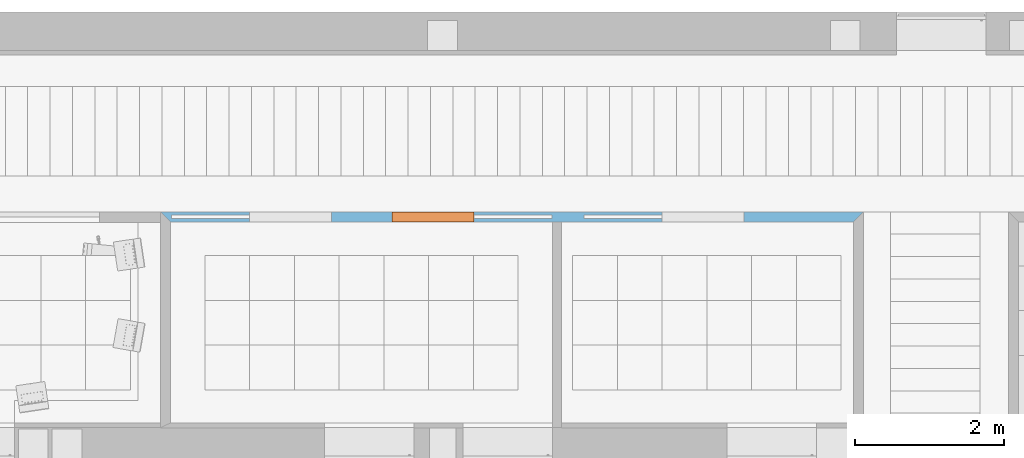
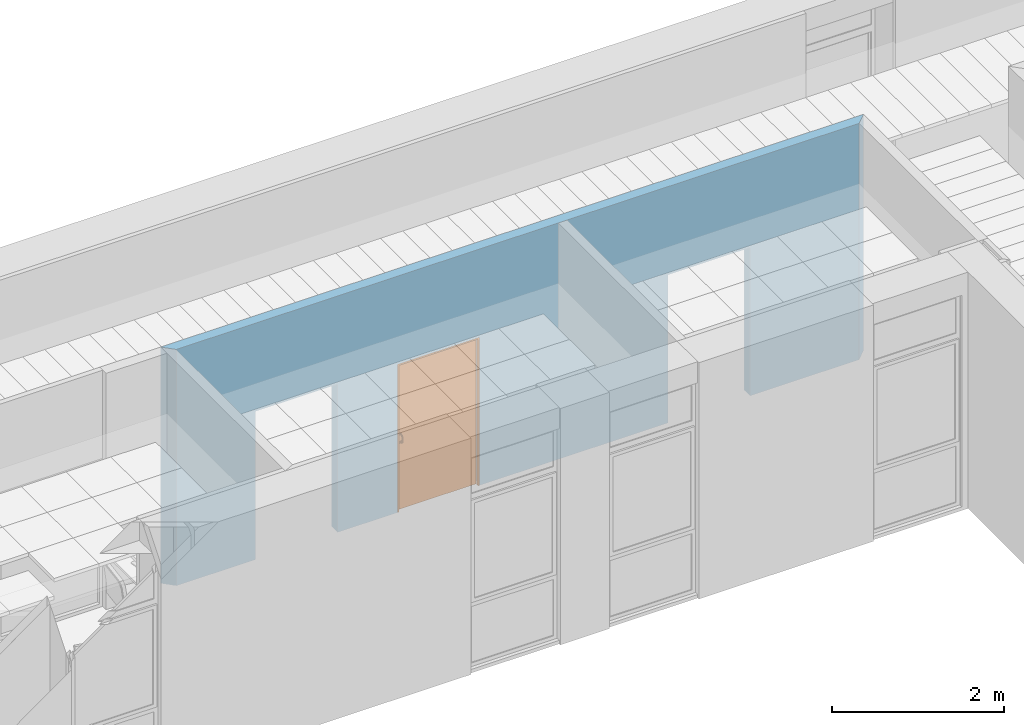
# One storey, part 57 of 68: 1 proxy, 3 openings, plus 1 element that does not belong to this part.
"""IFC2X3 building model written with IfcOpenShell, lengths in millimetres."""

from ifc_helpers import new_model, entity, si_unit, converted_unit, derived_unit, money_unit, direction, frame, origin_with_axes, origin_2d_with_axis, place, context, subcontext, project, spatial, polyline, rectangle, outline, extrude, open_shell, faceted_brep, surface_model, material, layer, layer_set, layer_usage, type_object, element, fill, save


model = new_model("IFC2X3")

# Units and contexts
model_context = context("Model", 3, precision=0.01, world=origin_with_axes(), true_north=direction((0.0, 1.0)))
body_context = subcontext(model_context, "Body", "Model", "MODEL_VIEW")
ifc_project = project(units=[si_unit("LENGTHUNIT", "METRE", prefix="MILLI"), si_unit("AREAUNIT", "SQUARE_METRE"), si_unit("VOLUMEUNIT", "CUBIC_METRE"), converted_unit("PLANEANGLEUNIT", "DEGREE", entity("IfcPlaneAngleMeasure", 0.0174532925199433), si_unit("PLANEANGLEUNIT", "RADIAN"), dimensions=[0, 0, 0, 0, 0, 0, 0]), money_unit("USD"), converted_unit("TIMEUNIT", "Year", entity("IfcTimeMeasure", 31557600.0), si_unit("TIMEUNIT", "SECOND"), dimensions=[0, 0, 1, 0, 0, 0, 0]), si_unit("MASSUNIT", "GRAM", prefix="KILO"), si_unit("THERMODYNAMICTEMPERATUREUNIT", "DEGREE_CELSIUS"), si_unit("LUMINOUSINTENSITYUNIT", "LUMEN"), si_unit("ENERGYUNIT", "JOULE", prefix="MEGA"), derived_unit("THERMALCONDUCTANCEUNIT", [(si_unit("POWERUNIT", "WATT"), 1), (si_unit("LENGTHUNIT", "METRE"), -1), (si_unit("THERMODYNAMICTEMPERATUREUNIT", "KELVIN"), -1)]), derived_unit("SPECIFICHEATCAPACITYUNIT", [(si_unit("ENERGYUNIT", "JOULE"), 1), (si_unit("MASSUNIT", "GRAM", prefix="KILO"), -1), (si_unit("THERMODYNAMICTEMPERATUREUNIT", "KELVIN"), -1)]), derived_unit("MASSDENSITYUNIT", [(si_unit("MASSUNIT", "GRAM", prefix="KILO"), 1), (si_unit("VOLUMEUNIT", "CUBIC_METRE"), -1)])], contexts=[model_context])

# Site, building, storey
site_placement = place(None, origin_with_axes())
site = spatial("IfcSite", under=ifc_project, at=site_placement, Name="Sitio", CompositionType="ELEMENT")
building_placement = place(site_placement, origin_with_axes())
building = spatial("IfcBuilding", under=site, at=building_placement, Name="Construcción", CompositionType="ELEMENT")
storey_placement = place(building_placement, origin_with_axes())
storey = spatial("IfcBuildingStorey", under=building, at=storey_placement, Name="PLANTA 1ª", CompositionType="ELEMENT", Elevation=0.0)

# Wall, openings, proxy
ifc_material_1 = material(Name="Panel de Yeso Laminado")
ifc_layer_1 = layer(ifc_material_1, 13.0, ventilated="UNKNOWN")
ifc_layer_2 = layer(ifc_material_1, 13.0, ventilated="UNKNOWN")
ifc_material_2 = material(Name="ARQ_AI033_Aillament_Llana_De_Roca")
ifc_layer_3 = layer(ifc_material_2, 70.0, ventilated="UNKNOWN")
ifc_layer_4 = layer(ifc_material_1, 13.0, ventilated="UNKNOWN")
ifc_layer_5 = layer(ifc_material_1, 13.0, ventilated="UNKNOWN")
ifc_material_3 = material(Name="ARQ_EN271_Camara_Aire")
ifc_layer_6 = layer(ifc_material_3, 6.0, ventilated="UNKNOWN")
ifc_material_4 = material(Name="ARQ_FU093_Panellat_HPL")
ifc_layer_7 = layer(ifc_material_4, 6.0, ventilated="UNKNOWN")
ifc_layer_set = layer_set([ifc_layer_1, ifc_layer_2, ifc_layer_3, ifc_layer_4, ifc_layer_5, ifc_layer_6, ifc_layer_7], Name="CR Pladur 70 HPL 1 cara")
ifc_layer_usage = layer_usage(ifc_layer_set, "AXIS2", "POSITIVE", 0.0)
wall_type = type_object("IfcWallType", Name="CR Pladur 70 HPL 1 cara 134", PredefinedType="NOTDEFINED")
wall_placement = place(storey_placement, frame((-10845.8481802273, 1566.853055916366, 0.0), z_axis=(0.0, 0.0, 1.0), x_axis=(1.0, 0.0, 0.0)))
wall = element("IfcWallStandardCase", 1, at=wall_placement, inside=storey, type_object=wall_type, material=ifc_layer_usage, Name="MS-213", context=body_context, shape_type="SweptSolid", body=[
    extrude(outline(polyline([(0.0, 0.0), (9155.739175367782, 0.0), (9289.739175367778, 133.9999999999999), (-133.9999999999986, 133.9999999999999), (0.0, 0.0)])), origin_with_axes(), (0.0, 0.0, 1.0), 3350.0),
])
opening_1_placement = place(wall_placement, frame((7140.305255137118, 0.0, 0.0), z_axis=(0.0, 0.0, 1.0), x_axis=(1.0, 0.0, 0.0)))
element("IfcOpeningElement", 2, at=opening_1_placement, cuts=wall, Name="P-04", context=body_context, shape_type="SweptSolid", body=[
    extrude(rectangle(XDim=1100.0, YDim=2100.0, at=origin_2d_with_axis()), frame((0.0, 134.0000000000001, 1050.0), z_axis=(0.0, -1.0, 0.0), x_axis=(-1.0, 0.0, 0.0)), (0.0, 0.0, 1.0), 402.0),
    extrude(rectangle(XDim=1044.999992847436, YDim=2080.0, at=origin_2d_with_axis()), frame((-1072.499996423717, 42.00000000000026, 1040.0), z_axis=(0.0, 1.0, 0.0), x_axis=(-1.0, 0.0, 0.0)), (0.0, 0.0, 1.0), 50.0),
])
opening_2_placement = place(wall_placement, frame((1610.854027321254, 0.0, 0.0), z_axis=(0.0, 0.0, 1.0), x_axis=(1.0, 0.0, 0.0)))
element("IfcOpeningElement", 3, at=opening_2_placement, cuts=wall, Name="P-04", context=body_context, shape_type="SweptSolid", body=[
    extrude(rectangle(XDim=1100.000000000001, YDim=2100.0, at=origin_2d_with_axis()), frame((0.0, 134.0000000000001, 1050.0), z_axis=(0.0, -1.0, 0.0), x_axis=(-1.0, 0.0, 0.0)), (0.0, 0.0, 1.0), 402.0),
    extrude(rectangle(XDim=1044.999992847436, YDim=2080.0, at=origin_2d_with_axis()), frame((-1072.499996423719, 42.00000000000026, 1040.0), z_axis=(0.0, 1.0, 0.0), x_axis=(-1.0, 0.0, 0.0)), (0.0, 0.0, 1.0), 50.0),
])
opening_3_placement = place(wall_placement, frame((3517.761394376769, 0.0, 0.0), z_axis=(0.0, 0.0, 1.0), x_axis=(1.0, 0.0, 0.0)))
opening_3 = element("IfcOpeningElement", 4, at=opening_3_placement, cuts=wall, Name="P-04", context=body_context, shape_type="SweptSolid", body=[
    extrude(rectangle(XDim=1100.0, YDim=2100.0, at=origin_2d_with_axis()), frame((0.0, 134.0000000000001, 1050.0), z_axis=(0.0, 1.0, 0.0), x_axis=(1.0, 0.0, 0.0)), (0.0, 0.0, -1.0), 402.0),
    extrude(rectangle(XDim=1044.999992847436, YDim=2080.0, at=origin_2d_with_axis()), frame((1072.499996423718, 42.00000000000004, 1040.0), z_axis=(0.0, -1.0, 0.0), x_axis=(1.0, 0.0, 0.0)), (0.0, 0.0, -1.0), 50.0),
])
building_element_proxy_type = type_object("IfcBuildingElementProxyType", Name="Puerta Corredera Empotrada 27", PredefinedType="NOTDEFINED")
proxy_placement = place(opening_3_placement, frame((549.9999999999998, 0.0, 0.0), z_axis=(0.0, 0.0, 1.0), x_axis=(-1.0, 0.0, 0.0)))
proxy = element("IfcBuildingElementProxy", 5, at=proxy_placement, inside=storey, type_object=building_element_proxy_type, Name="P-04", context=body_context, shape_type="SurfaceModel", body=[
    faceted_brep([(1100.0, 0.0, 0.0), (1100.0, -134.0000000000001, 0.0), (1080.0, -134.0000000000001, 0.0), (1080.0, 0.0, 0.0), (1100.0, 0.0, 2080.0), (1100.0, -134.0000000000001, 2080.0), (1080.0, -134.0000000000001, 2080.0), (1080.0, 0.0, 2080.0)], [[[0, 1, 2, 3]], [[4, 5, 1, 0]], [[1, 5, 6, 2]], [[3, 2, 6, 7]], [[0, 3, 7, 4]], [[7, 6, 5, 4]]]),
    faceted_brep([(19.99999999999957, -42.00000000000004, 2080.0), (19.99999999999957, 0.0, 2080.0), (0.0, 0.0, 2080.0), (0.0, -42.00000000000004, 2080.0), (19.99999999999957, -42.00000000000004, 0.0), (19.99999999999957, 0.0, 0.0), (0.0, 0.0, 0.0), (0.0, -42.00000000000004, 0.0)], [[[0, 1, 2, 3]], [[4, 5, 1, 0]], [[5, 6, 2, 1]], [[3, 2, 6, 7]], [[7, 4, 0, 3]], [[7, 6, 5, 4]]]),
    faceted_brep([(0.0, -92.00000000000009, 0.0), (0.0, -133.9999999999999, 0.0), (0.0, -134.0000000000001, 2080.0), (0.0, -92.00000000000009, 2080.0), (19.99999999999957, -92.00000000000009, 0.0), (19.99999999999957, -133.9999999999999, 0.0), (19.99999999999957, -134.0000000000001, 2080.0), (19.99999999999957, -92.00000000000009, 2080.0)], [[[0, 1, 2, 3]], [[4, 5, 1, 0]], [[2, 1, 5, 6]], [[3, 2, 6, 7]], [[7, 4, 0, 3]], [[7, 6, 5, 4]]]),
    faceted_brep([(1100.0, 0.0, 2100.0), (1100.0, -134.0000000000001, 2100.0), (1100.0, -134.0000000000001, 2080.0), (1100.0, 0.0, 2080.0), (0.0, 0.0, 2100.0), (0.0, -134.0000000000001, 2100.0), (0.0, -134.0000000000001, 2080.0), (19.99999999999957, -134.0000000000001, 2080.0), (1080.0, -134.0000000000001, 2080.0), (1080.0, 0.0, 2080.0), (19.99999999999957, 0.0, 2080.0), (0.0, 0.0, 2080.0)], [[[0, 1, 2, 3]], [[4, 5, 1, 0]], [[1, 5, 6, 7, 8, 2]], [[3, 2, 8, 9]], [[0, 3, 9, 10, 11, 4]], [[11, 6, 5, 4]], [[10, 7, 6, 11]], [[9, 8, 7, 10]]]),
    faceted_brep([(1023.0, -109.5000000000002, 1050.980762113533), (1023.937822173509, -111.2500000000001, 1054.011851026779), (1023.937822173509, -94.50000000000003, 1058.5), (1023.0, -94.50000000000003, 1055.0), (1023.0, -120.4807621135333, 1040.0), (1023.937822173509, -123.5118510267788, 1041.75), (1026.5, -112.5310889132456, 1056.230762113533), (1026.5, -94.50000000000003, 1061.062177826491), (1030.0, -94.50000000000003, 1062.0), (1033.5, -94.50000000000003, 1061.062177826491), (1036.062177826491, -94.50000000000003, 1058.5), (1037.0, -94.50000000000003, 1055.0), (1036.062177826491, -94.50000000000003, 1051.5), (1033.5, -94.50000000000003, 1048.937822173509), (1030.0, -94.50000000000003, 1048.0), (1026.5, -94.50000000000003, 1048.937822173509), (1023.937822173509, -94.50000000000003, 1051.5), (1023.937822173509, -107.7500000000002, 1047.949673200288), (1023.0, -124.5000000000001, 1025.0), (1023.937822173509, -128.0000000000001, 1025.0), (1026.5, -125.7307621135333, 1043.031088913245), (1023.937822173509, -117.4496732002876, 1038.25), (1030.0, -113.0000000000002, 1057.042939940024), (1033.5, -112.5310889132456, 1056.230762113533), (1036.062177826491, -111.2500000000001, 1054.011851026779), (1037.0, -109.5000000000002, 1050.980762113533), (1036.062177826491, -107.7500000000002, 1047.949673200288), (1033.5, -106.4689110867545, 1045.730762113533), (1030.0, -106.0000000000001, 1044.918584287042), (1026.5, -106.4689110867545, 1045.730762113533), (1023.937822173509, -121.0000000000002, 1025.0), (1026.5, -118.4378221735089, 1025.0), (1030.0, -117.5000000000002, 1025.0), (1033.5, -118.4378221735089, 1025.0), (1036.062177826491, -121.0000000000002, 1025.0), (1037.0, -124.5000000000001, 1025.0), (1036.062177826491, -128.0000000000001, 1025.0), (1033.5, -130.5621778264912, 1025.0), (1030.0, -131.5000000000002, 1025.0), (1026.5, -130.5621778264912, 1025.0), (1030.0, -126.5429399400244, 1043.5), (1026.5, -115.2307621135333, 1036.968911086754), (1033.5, -125.7307621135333, 1043.031088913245), (1036.062177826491, -123.5118510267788, 1041.75), (1037.0, -120.4807621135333, 1040.0), (1036.062177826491, -117.4496732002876, 1038.25), (1033.5, -115.2307621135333, 1036.968911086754), (1030.0, -114.4185842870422, 1036.5)], [[[0, 1, 2, 3]], [[4, 5, 1, 0]], [[1, 6, 7, 2]], [[3, 2, 7, 8, 9, 10, 11, 12, 13, 14, 15, 16]], [[17, 0, 3, 16]], [[18, 19, 5, 4]], [[5, 20, 6, 1]], [[21, 4, 0, 17]], [[6, 22, 8, 7]], [[22, 23, 9, 8]], [[23, 24, 10, 9]], [[24, 25, 11, 10]], [[25, 26, 12, 11]], [[26, 27, 13, 12]], [[27, 28, 14, 13]], [[28, 29, 15, 14]], [[29, 17, 16, 15]], [[18, 30, 31, 32, 33, 34, 35, 36, 37, 38, 39, 19]], [[19, 39, 20, 5]], [[30, 18, 4, 21]], [[20, 40, 22, 6]], [[41, 21, 17, 29]], [[40, 42, 23, 22]], [[42, 43, 24, 23]], [[43, 44, 25, 24]], [[44, 45, 26, 25]], [[45, 46, 27, 26]], [[46, 47, 28, 27]], [[47, 41, 29, 28]], [[31, 30, 21, 41]], [[32, 31, 41, 47]], [[33, 32, 47, 46]], [[34, 33, 46, 45]], [[35, 34, 45, 44]], [[36, 35, 44, 43]], [[37, 36, 43, 42]], [[38, 37, 42, 40]], [[39, 38, 40, 20]]]),
    faceted_brep([(1037.0, -109.5000000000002, 949.0192378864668), (1036.062177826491, -111.2500000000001, 945.9881489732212), (1036.062177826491, -94.50000000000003, 941.5), (1037.0, -94.50000000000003, 945.0), (1037.0, -120.4807621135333, 960.0), (1036.062177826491, -123.5118510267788, 958.2499999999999), (1033.5, -112.5310889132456, 943.7692378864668), (1033.5, -94.50000000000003, 938.937822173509), (1029.999999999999, -94.50000000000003, 938.0), (1026.5, -94.50000000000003, 938.937822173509), (1023.937822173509, -94.50000000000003, 941.5), (1023.0, -94.50000000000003, 945.0), (1023.937822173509, -94.50000000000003, 948.5), (1026.5, -94.50000000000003, 951.062177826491), (1029.999999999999, -94.50000000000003, 952.0), (1033.5, -94.50000000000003, 951.062177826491), (1036.062177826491, -94.50000000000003, 948.5), (1036.062177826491, -107.75, 952.0503267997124), (1037.0, -124.5000000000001, 975.0), (1036.062177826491, -128.0000000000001, 975.0), (1033.5, -125.7307621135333, 956.9689110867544), (1036.062177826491, -117.4496732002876, 961.75), (1029.999999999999, -113.0, 942.9570600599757), (1026.5, -112.5310889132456, 943.7692378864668), (1023.937822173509, -111.2500000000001, 945.9881489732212), (1023.0, -109.5000000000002, 949.0192378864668), (1023.937822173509, -107.75, 952.0503267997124), (1026.5, -106.4689110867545, 954.2692378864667), (1029.999999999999, -106.0000000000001, 955.0814157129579), (1033.5, -106.4689110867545, 954.2692378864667), (1036.062177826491, -121.0, 975.0), (1033.5, -118.4378221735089, 975.0), (1029.999999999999, -117.5000000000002, 975.0), (1026.5, -118.4378221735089, 975.0), (1023.937822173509, -121.0, 975.0), (1023.0, -124.5000000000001, 975.0), (1023.937822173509, -128.0000000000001, 975.0), (1026.5, -130.5621778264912, 975.0), (1029.999999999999, -131.5000000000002, 975.0), (1033.5, -130.5621778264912, 975.0), (1029.999999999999, -126.5429399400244, 956.5), (1033.5, -115.2307621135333, 963.0310889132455), (1026.5, -125.7307621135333, 956.9689110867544), (1023.937822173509, -123.5118510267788, 958.2499999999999), (1023.0, -120.4807621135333, 960.0), (1023.937822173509, -117.4496732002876, 961.75), (1026.5, -115.2307621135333, 963.0310889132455), (1029.999999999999, -114.4185842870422, 963.5)], [[[0, 1, 2, 3]], [[4, 5, 1, 0]], [[1, 6, 7, 2]], [[3, 2, 7, 8, 9, 10, 11, 12, 13, 14, 15, 16]], [[17, 0, 3, 16]], [[18, 19, 5, 4]], [[5, 20, 6, 1]], [[21, 4, 0, 17]], [[6, 22, 8, 7]], [[22, 23, 9, 8]], [[23, 24, 10, 9]], [[24, 25, 11, 10]], [[25, 26, 12, 11]], [[26, 27, 13, 12]], [[27, 28, 14, 13]], [[28, 29, 15, 14]], [[29, 17, 16, 15]], [[18, 30, 31, 32, 33, 34, 35, 36, 37, 38, 39, 19]], [[19, 39, 20, 5]], [[30, 18, 4, 21]], [[20, 40, 22, 6]], [[41, 21, 17, 29]], [[40, 42, 23, 22]], [[42, 43, 24, 23]], [[43, 44, 25, 24]], [[44, 45, 26, 25]], [[45, 46, 27, 26]], [[46, 47, 28, 27]], [[47, 41, 29, 28]], [[31, 30, 21, 41]], [[32, 31, 41, 47]], [[33, 32, 47, 46]], [[34, 33, 46, 45]], [[35, 34, 45, 44]], [[36, 35, 44, 43]], [[37, 36, 43, 42]], [[38, 37, 42, 40]], [[39, 38, 40, 20]]]),
    surface_model("IfcShellBasedSurfaceModel", [(1023.0, -124.5000000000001, 975.0), (1023.0, -124.5000000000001, 1025.0), (1023.937822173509, -121.0000000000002, 1025.0), (1023.937822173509, -121.0, 975.0), (1023.937822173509, -128.0000000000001, 975.0), (1023.937822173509, -128.0000000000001, 1025.0), (1026.5, -118.4378221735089, 1025.0), (1026.5, -118.4378221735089, 975.0), (1026.5, -130.5621778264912, 975.0), (1026.5, -130.5621778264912, 1025.0), (1029.999999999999, -117.5000000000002, 1025.0), (1029.999999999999, -117.5000000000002, 975.0), (1029.999999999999, -131.5000000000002, 975.0), (1029.999999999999, -131.5000000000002, 1025.0), (1033.5, -118.4378221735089, 1025.0), (1033.5, -118.4378221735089, 975.0), (1033.5, -130.5621778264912, 975.0), (1033.5, -130.5621778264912, 1025.0), (1036.062177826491, -121.0000000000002, 1025.0), (1036.062177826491, -121.0, 975.0), (1036.062177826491, -128.0000000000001, 975.0), (1036.062177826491, -128.0000000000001, 1025.0), (1037.0, -124.5000000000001, 1025.0), (1037.0, -124.5000000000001, 975.0)], [open_shell([[[0, 1, 2, 3]], [[4, 5, 1, 0]], [[3, 2, 6, 7]], [[8, 9, 5, 4]], [[7, 6, 10, 11]], [[12, 13, 9, 8]], [[11, 10, 14, 15]], [[16, 17, 13, 12]], [[15, 14, 18, 19]], [[20, 21, 17, 16]], [[19, 18, 22, 23]], [[23, 22, 21, 20]]])]),
    faceted_brep([(1012.679491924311, -87.00000000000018, 1045.0), (1010.0, -87.00000000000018, 1055.0), (1012.679491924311, -87.00000000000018, 1065.0), (1020.0, -87.00000000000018, 1072.320508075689), (1029.999999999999, -87.00000000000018, 1075.0), (1040.0, -87.00000000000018, 1072.320508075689), (1047.320508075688, -87.00000000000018, 1065.0), (1050.0, -87.00000000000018, 1055.0), (1047.320508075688, -87.00000000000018, 1045.0), (1040.0, -87.00000000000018, 1037.679491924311), (1029.999999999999, -87.00000000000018, 1035.0), (1020.0, -87.00000000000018, 1037.679491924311), (1012.679491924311, -94.50000000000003, 1045.0), (1010.0, -94.50000000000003, 1055.0), (1012.679491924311, -94.50000000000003, 1065.0), (1020.0, -94.50000000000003, 1072.320508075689), (1029.999999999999, -94.50000000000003, 1075.0), (1040.0, -94.50000000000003, 1072.320508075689), (1047.320508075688, -94.50000000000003, 1065.0), (1050.0, -94.50000000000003, 1055.0), (1047.320508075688, -94.50000000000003, 1045.0), (1040.0, -94.50000000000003, 1037.679491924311), (1029.999999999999, -94.50000000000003, 1035.0), (1020.0, -94.50000000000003, 1037.679491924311)], [[[0, 1, 2, 3, 4, 5, 6, 7, 8, 9, 10, 11]], [[0, 12, 13, 1]], [[1, 13, 14, 2]], [[2, 14, 15, 3]], [[3, 15, 16, 4]], [[4, 16, 17, 5]], [[5, 17, 18, 6]], [[6, 18, 19, 7]], [[7, 19, 20, 8]], [[8, 20, 21, 9]], [[9, 21, 22, 10]], [[10, 22, 23, 11]], [[11, 23, 12, 0]], [[12, 23, 22, 21, 20, 19, 18, 17, 16, 15, 14, 13]]]),
    faceted_brep([(1012.679491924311, -87.00000000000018, 934.9999999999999), (1010.0, -87.00000000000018, 945.0), (1012.679491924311, -87.00000000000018, 955.0), (1020.0, -87.00000000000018, 962.3205080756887), (1029.999999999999, -87.00000000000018, 965.0), (1040.0, -87.00000000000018, 962.3205080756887), (1047.320508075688, -87.00000000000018, 955.0), (1050.0, -87.00000000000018, 945.0), (1047.320508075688, -87.00000000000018, 934.9999999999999), (1040.0, -87.00000000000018, 927.6794919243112), (1029.999999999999, -87.00000000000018, 924.9999999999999), (1020.0, -87.00000000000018, 927.6794919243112), (1012.679491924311, -94.50000000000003, 934.9999999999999), (1010.0, -94.50000000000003, 945.0), (1012.679491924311, -94.50000000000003, 955.0), (1020.0, -94.50000000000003, 962.3205080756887), (1029.999999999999, -94.50000000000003, 965.0), (1040.0, -94.50000000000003, 962.3205080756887), (1047.320508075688, -94.50000000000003, 955.0), (1050.0, -94.50000000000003, 945.0), (1047.320508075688, -94.50000000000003, 934.9999999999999), (1040.0, -94.50000000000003, 927.6794919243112), (1029.999999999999, -94.50000000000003, 924.9999999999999), (1020.0, -94.50000000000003, 927.6794919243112)], [[[0, 1, 2, 3, 4, 5, 6, 7, 8, 9, 10, 11]], [[0, 12, 13, 1]], [[1, 13, 14, 2]], [[2, 14, 15, 3]], [[3, 15, 16, 4]], [[4, 16, 17, 5]], [[5, 17, 18, 6]], [[6, 18, 19, 7]], [[7, 19, 20, 8]], [[8, 20, 21, 9]], [[9, 21, 22, 10]], [[10, 22, 23, 11]], [[11, 23, 12, 0]], [[12, 23, 22, 21, 20, 19, 18, 17, 16, 15, 14, 13]]]),
    faceted_brep([(1023.0, -24.50000000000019, 1050.980762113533), (1023.0, -39.50000000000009, 1055.0), (1023.937822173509, -39.50000000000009, 1058.5), (1023.937822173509, -22.75000000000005, 1054.011851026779), (1023.937822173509, -26.25000000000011, 1047.949673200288), (1023.937822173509, -39.50000000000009, 1051.5), (1026.5, -39.50000000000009, 1048.937822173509), (1029.999999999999, -39.50000000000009, 1048.0), (1033.5, -39.50000000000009, 1048.937822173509), (1036.062177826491, -39.50000000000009, 1051.5), (1037.0, -39.50000000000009, 1055.0), (1036.062177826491, -39.50000000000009, 1058.5), (1033.5, -39.50000000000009, 1061.062177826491), (1029.999999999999, -39.50000000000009, 1062.0), (1026.5, -39.50000000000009, 1061.062177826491), (1026.5, -21.46891108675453, 1056.230762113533), (1023.0, -13.51923788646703, 1040.0), (1023.937822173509, -10.48814897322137, 1041.75), (1026.5, -27.53108891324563, 1045.730762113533), (1023.937822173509, -16.55032679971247, 1038.25), (1029.999999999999, -28.00000000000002, 1044.918584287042), (1033.5, -27.53108891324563, 1045.730762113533), (1036.062177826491, -26.25000000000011, 1047.949673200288), (1037.0, -24.50000000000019, 1050.980762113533), (1036.062177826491, -22.75000000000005, 1054.011851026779), (1033.5, -21.46891108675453, 1056.230762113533), (1029.999999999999, -21.00000000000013, 1057.042939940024), (1026.5, -8.269237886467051, 1043.031088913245), (1023.0, -9.500000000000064, 1025.0), (1023.937822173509, -6.000000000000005, 1025.0), (1026.5, -18.769237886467, 1036.968911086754), (1023.937822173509, -13.00000000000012, 1025.0), (1029.999999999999, -19.58141571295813, 1036.5), (1033.5, -18.769237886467, 1036.968911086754), (1036.062177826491, -16.55032679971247, 1038.25), (1037.0, -13.51923788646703, 1040.0), (1036.062177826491, -10.48814897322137, 1041.75), (1033.5, -8.269237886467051, 1043.031088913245), (1029.999999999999, -7.457060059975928, 1043.5), (1026.5, -3.437822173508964, 1025.0), (1029.999999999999, -2.500000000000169, 1025.0), (1033.5, -3.437822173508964, 1025.0), (1036.062177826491, -6.000000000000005, 1025.0), (1037.0, -9.500000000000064, 1025.0), (1036.062177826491, -13.00000000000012, 1025.0), (1033.5, -15.56217782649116, 1025.0), (1029.999999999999, -16.50000000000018, 1025.0), (1026.5, -15.56217782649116, 1025.0)], [[[0, 1, 2, 3]], [[4, 5, 1, 0]], [[1, 5, 6, 7, 8, 9, 10, 11, 12, 13, 14, 2]], [[3, 2, 14, 15]], [[16, 0, 3, 17]], [[18, 6, 5, 4]], [[19, 4, 0, 16]], [[20, 7, 6, 18]], [[21, 8, 7, 20]], [[22, 9, 8, 21]], [[23, 10, 9, 22]], [[24, 11, 10, 23]], [[25, 12, 11, 24]], [[26, 13, 12, 25]], [[15, 14, 13, 26]], [[17, 3, 15, 27]], [[28, 16, 17, 29]], [[30, 18, 4, 19]], [[31, 19, 16, 28]], [[32, 20, 18, 30]], [[33, 21, 20, 32]], [[34, 22, 21, 33]], [[35, 23, 22, 34]], [[36, 24, 23, 35]], [[37, 25, 24, 36]], [[38, 26, 25, 37]], [[27, 15, 26, 38]], [[29, 17, 27, 39]], [[28, 29, 39, 40, 41, 42, 43, 44, 45, 46, 47, 31]], [[47, 30, 19, 31]], [[46, 32, 30, 47]], [[45, 33, 32, 46]], [[44, 34, 33, 45]], [[43, 35, 34, 44]], [[42, 36, 35, 43]], [[41, 37, 36, 42]], [[40, 38, 37, 41]], [[39, 27, 38, 40]]]),
    faceted_brep([(1037.0, -24.50000000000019, 949.0192378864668), (1037.0, -39.50000000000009, 945.0), (1036.062177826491, -39.50000000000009, 941.5), (1036.062177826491, -22.75000000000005, 945.9881489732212), (1036.062177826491, -26.25000000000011, 952.0503267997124), (1036.062177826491, -39.50000000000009, 948.5), (1033.5, -39.50000000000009, 951.062177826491), (1029.999999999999, -39.50000000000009, 952.0), (1026.5, -39.50000000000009, 951.062177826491), (1023.937822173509, -39.50000000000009, 948.5), (1023.0, -39.50000000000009, 945.0), (1023.937822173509, -39.50000000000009, 941.5), (1026.5, -39.50000000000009, 938.937822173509), (1029.999999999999, -39.50000000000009, 938.0), (1033.5, -39.50000000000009, 938.937822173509), (1033.5, -21.46891108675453, 943.7692378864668), (1037.0, -13.51923788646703, 960.0), (1036.062177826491, -10.48814897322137, 958.2499999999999), (1033.5, -27.53108891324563, 954.2692378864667), (1036.062177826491, -16.55032679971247, 961.75), (1029.999999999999, -28.00000000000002, 955.0814157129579), (1026.5, -27.53108891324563, 954.2692378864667), (1023.937822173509, -26.25000000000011, 952.0503267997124), (1023.0, -24.50000000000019, 949.0192378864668), (1023.937822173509, -22.75000000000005, 945.9881489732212), (1026.5, -21.46891108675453, 943.7692378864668), (1029.999999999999, -21.00000000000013, 942.9570600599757), (1033.5, -8.269237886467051, 956.9689110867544), (1037.0, -9.500000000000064, 975.0), (1036.062177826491, -6.000000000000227, 975.0), (1033.5, -18.769237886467, 963.0310889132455), (1036.062177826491, -13.00000000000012, 975.0), (1029.999999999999, -19.58141571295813, 963.5), (1026.5, -18.769237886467, 963.0310889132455), (1023.937822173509, -16.55032679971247, 961.75), (1023.0, -13.51923788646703, 960.0), (1023.937822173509, -10.48814897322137, 958.2499999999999), (1026.5, -8.269237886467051, 956.9689110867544), (1029.999999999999, -7.457060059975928, 956.5), (1033.5, -3.437822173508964, 975.0), (1029.999999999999, -2.500000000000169, 975.0), (1026.5, -3.437822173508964, 975.0), (1023.937822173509, -6.000000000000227, 975.0), (1023.0, -9.500000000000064, 975.0), (1023.937822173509, -13.00000000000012, 975.0), (1026.5, -15.56217782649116, 975.0), (1029.999999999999, -16.50000000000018, 975.0), (1033.5, -15.56217782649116, 975.0)], [[[0, 1, 2, 3]], [[4, 5, 1, 0]], [[1, 5, 6, 7, 8, 9, 10, 11, 12, 13, 14, 2]], [[3, 2, 14, 15]], [[16, 0, 3, 17]], [[18, 6, 5, 4]], [[19, 4, 0, 16]], [[20, 7, 6, 18]], [[21, 8, 7, 20]], [[22, 9, 8, 21]], [[23, 10, 9, 22]], [[24, 11, 10, 23]], [[25, 12, 11, 24]], [[26, 13, 12, 25]], [[15, 14, 13, 26]], [[17, 3, 15, 27]], [[28, 16, 17, 29]], [[30, 18, 4, 19]], [[31, 19, 16, 28]], [[32, 20, 18, 30]], [[33, 21, 20, 32]], [[34, 22, 21, 33]], [[35, 23, 22, 34]], [[36, 24, 23, 35]], [[37, 25, 24, 36]], [[38, 26, 25, 37]], [[27, 15, 26, 38]], [[29, 17, 27, 39]], [[28, 29, 39, 40, 41, 42, 43, 44, 45, 46, 47, 31]], [[47, 30, 19, 31]], [[46, 32, 30, 47]], [[45, 33, 32, 46]], [[44, 34, 33, 45]], [[43, 35, 34, 44]], [[42, 36, 35, 43]], [[41, 37, 36, 42]], [[40, 38, 37, 41]], [[39, 27, 38, 40]]]),
    surface_model("IfcShellBasedSurfaceModel", [(1023.0, -9.500000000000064, 975.0), (1023.937822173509, -13.00000000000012, 975.0), (1023.937822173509, -13.00000000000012, 1025.0), (1023.0, -9.500000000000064, 1025.0), (1026.5, -15.56217782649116, 975.0), (1026.5, -15.56217782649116, 1025.0), (1023.937822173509, -6.000000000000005, 975.0), (1023.937822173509, -6.000000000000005, 1025.0), (1029.999999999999, -16.50000000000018, 975.0), (1029.999999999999, -16.50000000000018, 1025.0), (1026.5, -3.437822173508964, 975.0), (1026.5, -3.437822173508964, 1025.0), (1033.5, -15.56217782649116, 975.0), (1033.5, -15.56217782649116, 1025.0), (1029.999999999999, -2.500000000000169, 975.0), (1029.999999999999, -2.500000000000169, 1025.0), (1036.062177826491, -13.00000000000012, 975.0), (1036.062177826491, -13.00000000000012, 1025.0), (1033.5, -3.437822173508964, 975.0), (1033.5, -3.437822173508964, 1025.0), (1037.0, -9.500000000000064, 975.0), (1037.0, -9.500000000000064, 1025.0), (1036.062177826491, -6.000000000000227, 975.0), (1036.062177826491, -6.000000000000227, 1025.0)], [open_shell([[[0, 1, 2, 3]], [[1, 4, 5, 2]], [[6, 0, 3, 7]], [[4, 8, 9, 5]], [[10, 6, 7, 11]], [[8, 12, 13, 9]], [[14, 10, 11, 15]], [[12, 16, 17, 13]], [[18, 14, 15, 19]], [[16, 20, 21, 17]], [[22, 18, 19, 23]], [[20, 22, 23, 21]]])]),
    faceted_brep([(1012.679491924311, -47.00000000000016, 1045.0), (1020.0, -47.00000000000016, 1037.679491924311), (1029.999999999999, -47.00000000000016, 1035.0), (1040.0, -47.00000000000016, 1037.679491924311), (1047.320508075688, -47.00000000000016, 1045.0), (1050.0, -47.00000000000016, 1055.0), (1047.320508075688, -47.00000000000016, 1065.0), (1040.0, -47.00000000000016, 1072.320508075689), (1029.999999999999, -47.00000000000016, 1075.0), (1020.0, -47.00000000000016, 1072.320508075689), (1012.679491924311, -47.00000000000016, 1065.0), (1010.0, -47.00000000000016, 1055.0), (1012.679491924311, -39.50000000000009, 1045.0), (1020.0, -39.50000000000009, 1037.679491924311), (1029.999999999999, -39.50000000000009, 1035.0), (1040.0, -39.50000000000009, 1037.679491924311), (1047.320508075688, -39.50000000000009, 1045.0), (1050.0, -39.50000000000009, 1055.0), (1047.320508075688, -39.50000000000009, 1065.0), (1040.0, -39.50000000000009, 1072.320508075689), (1029.999999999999, -39.50000000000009, 1075.0), (1020.0, -39.50000000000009, 1072.320508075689), (1012.679491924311, -39.50000000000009, 1065.0), (1010.0, -39.50000000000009, 1055.0)], [[[0, 1, 2, 3, 4, 5, 6, 7, 8, 9, 10, 11]], [[1, 0, 12, 13]], [[2, 1, 13, 14]], [[3, 2, 14, 15]], [[4, 3, 15, 16]], [[5, 4, 16, 17]], [[6, 5, 17, 18]], [[7, 6, 18, 19]], [[8, 7, 19, 20]], [[9, 8, 20, 21]], [[10, 9, 21, 22]], [[11, 10, 22, 23]], [[0, 11, 23, 12]], [[12, 23, 22, 21, 20, 19, 18, 17, 16, 15, 14, 13]]]),
    faceted_brep([(1012.679491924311, -47.00000000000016, 934.9999999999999), (1020.0, -47.00000000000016, 927.6794919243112), (1029.999999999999, -47.00000000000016, 924.9999999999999), (1040.0, -47.00000000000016, 927.6794919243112), (1047.320508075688, -47.00000000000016, 934.9999999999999), (1050.0, -47.00000000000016, 945.0), (1047.320508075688, -47.00000000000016, 955.0), (1040.0, -47.00000000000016, 962.3205080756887), (1029.999999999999, -47.00000000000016, 965.0), (1020.0, -47.00000000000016, 962.3205080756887), (1012.679491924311, -47.00000000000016, 955.0), (1010.0, -47.00000000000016, 945.0), (1012.679491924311, -39.50000000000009, 934.9999999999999), (1020.0, -39.50000000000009, 927.6794919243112), (1029.999999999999, -39.50000000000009, 924.9999999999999), (1040.0, -39.50000000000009, 927.6794919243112), (1047.320508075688, -39.50000000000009, 934.9999999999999), (1050.0, -39.50000000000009, 945.0), (1047.320508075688, -39.50000000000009, 955.0), (1040.0, -39.50000000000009, 962.3205080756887), (1029.999999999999, -39.50000000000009, 965.0), (1020.0, -39.50000000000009, 962.3205080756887), (1012.679491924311, -39.50000000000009, 955.0), (1010.0, -39.50000000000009, 945.0)], [[[0, 1, 2, 3, 4, 5, 6, 7, 8, 9, 10, 11]], [[1, 0, 12, 13]], [[2, 1, 13, 14]], [[3, 2, 14, 15]], [[4, 3, 15, 16]], [[5, 4, 16, 17]], [[6, 5, 17, 18]], [[7, 6, 18, 19]], [[8, 7, 19, 20]], [[9, 8, 20, 21]], [[10, 9, 21, 22]], [[11, 10, 22, 23]], [[0, 11, 23, 12]], [[12, 23, 22, 21, 20, 19, 18, 17, 16, 15, 14, 13]]]),
    faceted_brep([(19.99999999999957, -46.99999999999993, 0.0), (1080.0, -47.00000000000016, 0.0), (1080.0, -86.99999999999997, 0.0), (19.99999999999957, -86.99999999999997, 0.0), (19.99999999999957, -47.00000000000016, 2080.0), (1080.0, -47.00000000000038, 2080.0), (1080.0, -87.00000000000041, 2080.0), (19.99999999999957, -87.00000000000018, 2080.0)], [[[0, 1, 2, 3]], [[0, 4, 5, 1]], [[1, 5, 6, 2]], [[3, 2, 6, 7]], [[4, 0, 3, 7]], [[5, 4, 7, 6]]]),
])
fill(opening_3, proxy)

save(model, "model.ifc")
